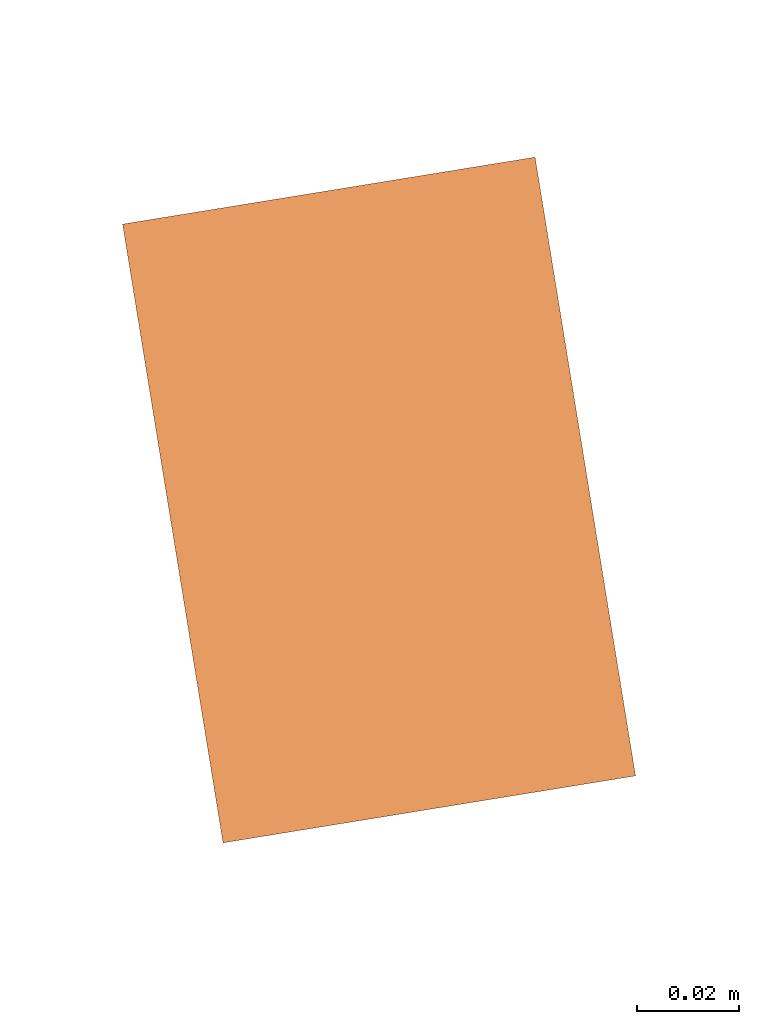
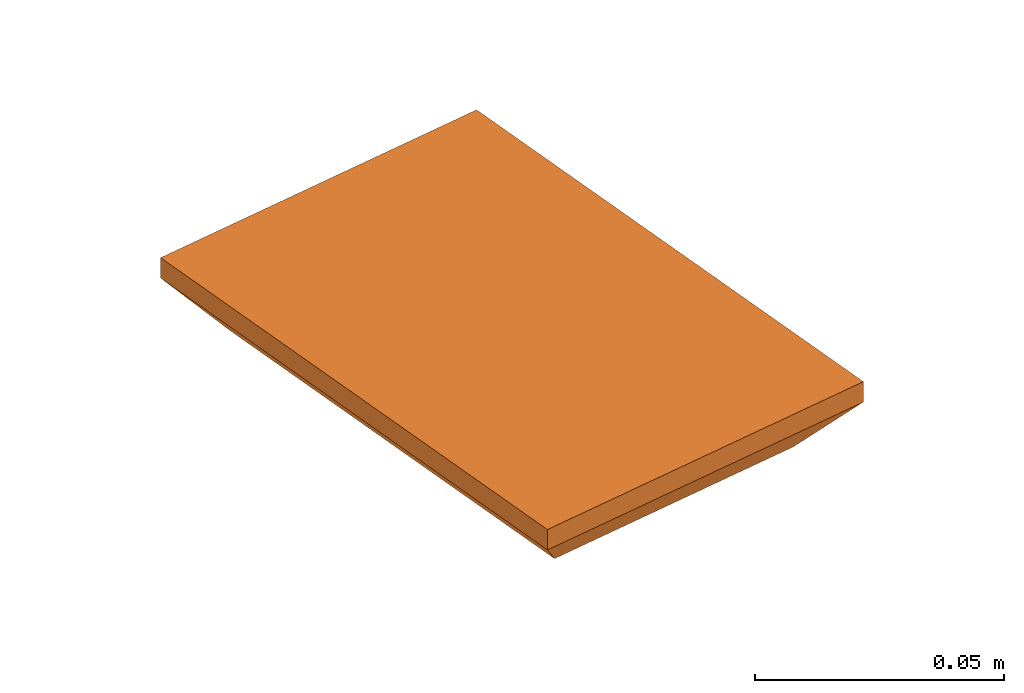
# One storey, part 25 of 33: 1 proxy.
"""IFC2X3 building model written with IfcOpenShell, lengths in millimetres."""

from ifc_helpers import new_model, entity, si_unit, converted_unit, derived_unit, direction, frame, origin, origin_with_axes, place, context, subcontext, project, spatial, faceted_brep, source, transform, mapped, material, type_object, element, save


model = new_model("IFC2X3")

# Units and contexts
plan_context = context("Plan", 3, precision=1e-05, world=origin_with_axes())
model_context = context("Model", 3, precision=0.01, world=origin(), true_north=direction((6.12323399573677e-17, 1.0)))
body_context = subcontext(model_context, "Body", "Model", "MODEL_VIEW")
ifc_project = project(units=[converted_unit("PLANEANGLEUNIT", "DEGREE", entity("IfcPositiveLengthMeasure", 0.0174532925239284), si_unit("PLANEANGLEUNIT", "RADIAN"), dimensions=[0, 0, 0, 0, 0, 0, 0]), si_unit("AREAUNIT", "SQUARE_METRE"), si_unit("LENGTHUNIT", "METRE", prefix="MILLI"), si_unit("MASSUNIT", "GRAM", prefix="KILO"), si_unit("POWERUNIT", "WATT"), si_unit("PRESSUREUNIT", "PASCAL", prefix="KILO"), si_unit("FORCEUNIT", "NEWTON", prefix="KILO"), si_unit("ELECTRICVOLTAGEUNIT", "VOLT"), si_unit("ELECTRICCURRENTUNIT", "AMPERE"), si_unit("THERMODYNAMICTEMPERATUREUNIT", "DEGREE_CELSIUS"), si_unit("TIMEUNIT", "SECOND"), si_unit("VOLUMEUNIT", "CUBIC_METRE"), derived_unit("LINEARVELOCITYUNIT", [(si_unit("LENGTHUNIT", "METRE"), 1), (si_unit("TIMEUNIT", "SECOND"), -1)]), derived_unit("VOLUMETRICFLOWRATEUNIT", [(si_unit("VOLUMEUNIT", "CUBIC_METRE"), 1), (si_unit("TIMEUNIT", "SECOND"), -1)]), derived_unit("THERMALTRANSMITTANCEUNIT", [(si_unit("POWERUNIT", "WATT"), 1), (si_unit("THERMODYNAMICTEMPERATUREUNIT", "KELVIN"), -1), (si_unit("AREAUNIT", "SQUARE_METRE"), -1)]), derived_unit("SOUNDPRESSUREUNIT", [(si_unit("PRESSUREUNIT", "PASCAL"), 1)])], contexts=[model_context, plan_context])

# Site, building, storey
site_placement = place(None, frame((-0.219946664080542, 0.12226179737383, 0.0), z_axis=(0.0, 0.0, 1.0), x_axis=(-0.160236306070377, 0.987078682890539, 0.0)))
site = spatial("IfcSite", under=ifc_project, at=site_placement, Name="Default", CompositionType="ELEMENT")
building_placement = place(site_placement, origin_with_axes())
building = spatial("IfcBuilding", under=site, at=building_placement, CompositionType="ELEMENT")
storey_placement = place(building_placement, frame((0.0, 0.0, 59000.0), z_axis=(0.0, 0.0, 1.0), x_axis=(1.0, 0.0, 0.0)))
storey = spatial("IfcBuildingStorey", under=building, at=storey_placement, Name="Nivå F", CompositionType="ELEMENT", Elevation=59000.0)

# Proxy
ifc_material = material(Name="<Unnamed>")
building_element_proxy_type = type_object("IfcBuildingElementProxyType", Name="Wieland stikk i tak m_boks 2P+dali+J PH:Earthed reces socket c2", PredefinedType="NOTDEFINED", material=ifc_material)
shared_shape = source(origin(), body_context, "Body", "Brep", [
    faceted_brep([(25.250000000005, -18.3000000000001, -17.8944271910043), (25.250000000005, -18.5954451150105, -17.489897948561), (25.250000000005, -18.7000000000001, -17.0), (25.250000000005, -18.7000000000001, -5.0), (25.250000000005, -19.5000000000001, -5.0), (25.250000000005, -19.5000000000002, -17.0), (25.250000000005, -18.9142135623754, -18.4142135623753), (25.250000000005, -17.5000000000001, -19.0), (25.250000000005, -17.5000000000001, -11.0), (25.250000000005, -18.3000000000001, -11.0), (24.250000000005, -19.5000000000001, -5.0), (24.250000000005, -18.7000000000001, -5.0), (24.250000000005, -18.7000000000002, -17.0), (24.250000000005, -18.5954451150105, -17.489897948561), (24.250000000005, -18.3000000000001, -17.8944271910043), (24.250000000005, -18.3000000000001, -11.0), (24.250000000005, -17.5000000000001, -11.0), (24.250000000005, -17.5000000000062, -19.0), (24.250000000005, -18.9142135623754, -18.4142135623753), (24.250000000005, -19.5000000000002, -17.0)], [[[0, 1, 2, 3, 4, 5, 6, 7, 8, 9]], [[10, 11, 12, 13, 14, 15, 16, 17, 18, 19]], [[11, 10, 4, 3]], [[12, 11, 3, 2]], [[2, 1, 13, 12]], [[0, 14, 13, 1]], [[15, 14, 0, 9]], [[16, 15, 9, 8]], [[17, 16, 8, 7]], [[17, 7, 6, 18]], [[6, 5, 19, 18]], [[10, 19, 5, 4]]]),
    faceted_brep([(24.250000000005, 18.3000000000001, -17.8944271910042), (24.250000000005, 18.5954451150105, -17.4898979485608), (24.250000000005, 18.7000000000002, -17.0), (24.250000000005, 18.7000000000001, -5.0), (24.250000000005, 19.5000000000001, -5.0), (24.250000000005, 19.5000000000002, -17.0), (24.250000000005, 18.9142135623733, -18.4142135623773), (24.250000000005, 17.5000000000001, -19.0), (24.250000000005, 17.5000000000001, -11.0), (24.250000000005, 18.3000000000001, -11.0), (25.250000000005, 19.5000000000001, -5.0), (25.250000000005, 18.7000000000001, -5.0), (25.250000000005, 18.7000000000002, -17.0), (25.250000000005, 18.5954451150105, -17.4898979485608), (25.250000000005, 18.3000000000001, -17.8944271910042), (25.250000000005, 18.3000000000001, -11.0), (25.250000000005, 17.5000000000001, -11.0), (25.250000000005, 17.5000000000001, -19.0), (25.250000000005, 18.9142135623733, -18.4142135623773), (25.250000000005, 19.5000000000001, -17.0)], [[[0, 1, 2, 3, 4, 5, 6, 7, 8, 9]], [[10, 11, 12, 13, 14, 15, 16, 17, 18, 19]], [[9, 8, 16, 15]], [[0, 9, 15, 14]], [[14, 13, 1, 0]], [[12, 2, 1, 13]], [[3, 2, 12, 11]], [[4, 3, 11, 10]], [[5, 4, 10, 19]], [[5, 19, 18, 6]], [[18, 17, 7, 6]], [[8, 7, 17, 16]]]),
    faceted_brep([(-25.249999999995, 18.9142135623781, -18.4142135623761), (-25.249999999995, 19.5000000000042, -17.0), (-25.249999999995, 19.5000000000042, -5.0), (-25.249999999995, 18.7000000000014, -5.0), (-25.249999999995, 18.7000000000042, -17.0), (-25.249999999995, 18.5954451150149, -17.4898979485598), (-25.249999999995, 18.3000000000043, -17.8944271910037), (-25.249999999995, 18.3000000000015, -11.0), (-25.249999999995, 17.5000000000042, -11.0), (-25.249999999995, 17.5000000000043, -19.0), (-26.249999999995, 19.5000000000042, -5.0), (-26.249999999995, 19.5000000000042, -17.0), (-26.249999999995, 18.9142135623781, -18.4142135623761), (-26.249999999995, 17.5000000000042, -19.0), (-26.249999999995, 17.5000000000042, -11.0), (-26.249999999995, 18.3000000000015, -11.0), (-26.249999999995, 18.3000000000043, -17.8944271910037), (-26.249999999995, 18.5954451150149, -17.4898979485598), (-26.249999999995, 18.7000000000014, -17.0), (-26.249999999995, 18.7000000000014, -5.0)], [[[0, 1, 2, 3, 4, 5, 6, 7, 8, 9]], [[10, 11, 12, 13, 14, 15, 16, 17, 18, 19]], [[11, 10, 2, 1]], [[11, 1, 0, 12]], [[0, 9, 13, 12]], [[14, 13, 9, 8]], [[16, 15, 7, 6]], [[6, 5, 17, 16]], [[4, 18, 17, 5]], [[19, 18, 4, 3]], [[10, 19, 3, 2]], [[15, 14, 8, 7]]]),
    faceted_brep([(-25.249999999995, -17.4999999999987, -19.0), (-25.249999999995, -17.4999999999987, -5.0), (-25.249999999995, -18.2999999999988, -5.0), (-25.249999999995, -18.2999999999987, -17.8944271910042), (-25.249999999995, -18.5954451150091, -17.4898979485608), (-25.249999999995, -18.6999999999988, -17.0), (-25.249999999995, -18.6999999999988, -11.0), (-25.249999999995, -19.4999999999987, -11.0), (-25.249999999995, -19.4999999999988, -17.0), (-25.249999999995, -18.9142135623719, -18.4142135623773), (-26.249999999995, -17.4999999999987, -5.0), (-26.249999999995, -17.4999999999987, -19.0), (-26.249999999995, -18.9142135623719, -18.4142135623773), (-26.249999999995, -19.4999999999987, -17.0), (-26.249999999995, -19.4999999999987, -11.0), (-26.249999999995, -18.6999999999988, -11.0), (-26.249999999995, -18.6999999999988, -17.0), (-26.249999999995, -18.5954451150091, -17.4898979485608), (-26.249999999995, -18.2999999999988, -17.8944271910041), (-26.249999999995, -18.2999999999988, -5.0)], [[[0, 1, 2, 3, 4, 5, 6, 7, 8, 9]], [[10, 11, 12, 13, 14, 15, 16, 17, 18, 19]], [[11, 10, 1, 0]], [[0, 9, 12, 11]], [[12, 9, 8, 13]], [[14, 13, 8, 7]], [[15, 14, 7, 6]], [[16, 15, 6, 5]], [[4, 17, 16, 5]], [[3, 18, 17, 4]], [[19, 18, 3, 2]], [[10, 19, 2, 1]]]),
    faceted_brep([(15.7500000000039, -2.5, -5.0), (16.3750000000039, -1.875, -5.0), (17.0, -1.25, -5.0), (17.6250000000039, -0.625000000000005, -5.0), (18.2500000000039, 0.0, -5.0), (17.7008289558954, 0.54917104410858, -5.0), (17.0, 1.25, -5.0), (16.375000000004, 1.875, -5.0), (15.750000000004, 2.5, -5.0), (15.125000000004, 1.87500000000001, -5.0), (14.500000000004, 1.25000000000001, -5.0), (13.8750000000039, 0.625000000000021, -5.0), (13.2500000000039, 0.0, -5.0), (13.7991710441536, -0.549171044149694, -5.0), (14.5000000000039, -1.25, -5.0), (15.1250000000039, -1.875, -5.0), (17.7008289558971, -0.549171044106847, -5.20000000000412), (17.1516579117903, -1.09834208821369, -5.20000000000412), (16.4508289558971, -1.79917104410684, -5.20000000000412), (15.7500000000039, -2.5, -5.20000000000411), (15.1250000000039, -1.875, -5.20000000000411), (14.5000000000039, -1.25, -5.20000000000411), (13.8750000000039, -0.625, -5.20000000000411), (13.2500000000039, 0.0, -5.2000000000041), (13.7991710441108, 0.54917104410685, -5.20000000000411), (14.3483420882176, 1.09834208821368, -5.20000000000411), (15.0491710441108, 1.79917104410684, -5.20000000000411), (15.750000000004, 2.5, -5.20000000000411), (16.375000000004, 1.875, -5.20000000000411), (17.0, 1.25, -5.20000000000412), (17.6250000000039, 0.624999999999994, -5.20000000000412), (18.2500000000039, 0.0, -5.20000000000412)], [[[0, 1, 2, 3, 4, 5, 6, 7, 8, 9, 10, 11, 12, 13, 14, 15]], [[16, 17, 18, 19, 20, 21, 22, 23, 24, 25, 26, 27, 28, 29, 30, 31]], [[29, 28, 27, 8, 7, 6, 5, 4, 31, 30]], [[8, 27, 26, 25, 24, 23, 12, 11, 10, 9]], [[21, 20, 19, 0, 15, 14, 13, 12, 23, 22]], [[0, 19, 18, 17, 16, 31, 4, 3, 2, 1]]]),
    faceted_brep([(35.0491710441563, -1.79917104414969, -5.20000000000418), (34.348342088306, -1.09834208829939, -5.20000000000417), (33.7991710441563, -0.549171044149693, -5.20000000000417), (33.2500000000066, 0.0, -5.20000000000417), (33.8750000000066, 0.625000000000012, -5.20000000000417), (34.5000000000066, 1.25000000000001, -5.20000000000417), (35.1250000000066, 1.875, -5.20000000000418), (35.7500000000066, 2.5, -5.20000000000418), (36.450828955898, 1.79917104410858, -5.20000000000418), (37.1516579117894, 1.09834208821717, -5.20000000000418), (37.700828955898, 0.54917104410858, -5.20000000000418), (38.2500000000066, 0.0, -5.20000000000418), (37.6250000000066, -0.625000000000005, -5.20000000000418), (37.0, -1.25, -5.20000000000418), (36.3750000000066, -1.875, -5.20000000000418), (35.7500000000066, -2.5, -5.20000000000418), (35.1250000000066, 1.87500000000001, -5.0), (34.5000000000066, 1.25000000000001, -5.0), (33.7991710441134, 0.549171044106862, -5.0), (33.2500000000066, 0.0, -5.0), (33.8750000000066, -0.625, -5.0), (34.5000000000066, -1.25, -5.0), (35.1250000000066, -1.875, -5.0), (35.7500000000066, -2.5, -5.0), (36.3750000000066, -1.875, -5.0), (37.0, -1.25, -5.0), (37.7008289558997, -0.549171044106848, -5.0), (38.2500000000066, 0.0, -5.0), (37.6250000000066, 0.624999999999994, -5.0), (37.0, 1.25, -5.0), (36.3750000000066, 1.875, -5.0), (35.7500000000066, 2.5, -5.0)], [[[0, 1, 2, 3, 4, 5, 6, 7, 8, 9, 10, 11, 12, 13, 14, 15]], [[16, 17, 18, 19, 20, 21, 22, 23, 24, 25, 26, 27, 28, 29, 30, 31]], [[30, 29, 28, 27, 11, 10, 9, 8, 7, 31]], [[31, 7, 6, 5, 4, 3, 19, 18, 17, 16]], [[22, 21, 20, 19, 3, 2, 1, 0, 15, 23]], [[23, 15, 14, 13, 12, 11, 27, 26, 25, 24]]]),
    faceted_brep([(-36.3749999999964, 1.87500000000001, -5.0), (-37.0, 1.25000000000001, -5.0), (-37.6249999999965, 0.625000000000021, -5.0), (-38.2499999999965, 0.0, -5.0), (-37.7008289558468, -0.549171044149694, -5.0), (-37.0, -1.25, -5.0), (-36.3749999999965, -1.875, -5.0), (-35.7499999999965, -2.5, -5.0), (-35.1249999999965, -1.875, -5.0), (-34.4999999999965, -1.25, -5.0), (-33.8749999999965, -0.625000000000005, -5.0), (-33.2499999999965, 0.0, -5.0), (-33.799171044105, 0.54917104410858, -5.0), (-34.4999999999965, 1.25, -5.0), (-35.1249999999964, 1.875, -5.0), (-35.7499999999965, 2.5, -5.0), (-36.3749999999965, -1.875, -5.20000000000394), (-37.0, -1.25, -5.20000000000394), (-37.6249999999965, -0.625, -5.20000000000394), (-38.2499999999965, 0.0, -5.20000000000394), (-37.7008289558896, 0.54917104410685, -5.20000000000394), (-37.1516579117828, 1.09834208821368, -5.20000000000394), (-36.4508289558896, 1.79917104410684, -5.20000000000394), (-35.7499999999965, 2.5, -5.20000000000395), (-35.1249999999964, 1.875, -5.20000000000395), (-34.4999999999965, 1.25, -5.20000000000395), (-33.8749999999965, 0.624999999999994, -5.20000000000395), (-33.2499999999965, 0.0, -5.20000000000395), (-33.7991710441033, -0.549171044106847, -5.20000000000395), (-34.3483420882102, -1.09834208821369, -5.20000000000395), (-35.0491710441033, -1.79917104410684, -5.20000000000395), (-35.7499999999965, -2.5, -5.20000000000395)], [[[0, 1, 2, 3, 4, 5, 6, 7, 8, 9, 10, 11, 12, 13, 14, 15]], [[16, 17, 18, 19, 20, 21, 22, 23, 24, 25, 26, 27, 28, 29, 30, 31]], [[25, 24, 23, 15, 14, 13, 12, 11, 27, 26]], [[15, 23, 22, 21, 20, 19, 3, 2, 1, 0]], [[17, 16, 31, 7, 6, 5, 4, 3, 19, 18]], [[7, 31, 30, 29, 28, 27, 11, 10, 9, 8]]]),
    faceted_brep([(-16.4508289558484, -1.79917104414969, -5.20000000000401), (-17.1516579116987, -1.09834208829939, -5.20000000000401), (-17.7008289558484, -0.549171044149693, -5.200000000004), (-18.2499999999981, 0.0, -5.200000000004), (-17.6249999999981, 0.625000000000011, -5.200000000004), (-17.0, 1.25000000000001, -5.20000000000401), (-16.3749999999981, 1.875, -5.20000000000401), (-15.7499999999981, 2.5, -5.20000000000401), (-15.0491710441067, 1.79917104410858, -5.20000000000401), (-14.3483420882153, 1.09834208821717, -5.20000000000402), (-13.7991710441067, 0.549171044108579, -5.20000000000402), (-13.2499999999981, 0.0, -5.20000000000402), (-13.8749999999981, -0.625000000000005, -5.20000000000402), (-14.4999999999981, -1.25, -5.20000000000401), (-15.1249999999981, -1.875, -5.20000000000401), (-15.7499999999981, -2.5, -5.20000000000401), (-16.3749999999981, 1.87500000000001, -5.0), (-17.0, 1.25000000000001, -5.0), (-17.7008289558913, 0.549171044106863, -5.0), (-18.2499999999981, 0.0, -5.0), (-17.6249999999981, -0.625, -5.0), (-17.0, -1.25, -5.0), (-16.3749999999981, -1.875, -5.0), (-15.7499999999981, -2.5, -5.0), (-15.1249999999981, -1.875, -5.0), (-14.4999999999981, -1.25, -5.0), (-13.799171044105, -0.549171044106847, -5.0), (-13.2499999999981, 0.0, -5.0), (-13.8749999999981, 0.624999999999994, -5.0), (-14.4999999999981, 1.25, -5.0), (-15.1249999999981, 1.875, -5.0), (-15.7499999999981, 2.5, -5.0)], [[[0, 1, 2, 3, 4, 5, 6, 7, 8, 9, 10, 11, 12, 13, 14, 15]], [[16, 17, 18, 19, 20, 21, 22, 23, 24, 25, 26, 27, 28, 29, 30, 31]], [[30, 29, 28, 27, 11, 10, 9, 8, 7, 31]], [[31, 7, 6, 5, 4, 3, 19, 18, 17, 16]], [[22, 21, 20, 19, 3, 2, 1, 0, 15, 23]], [[23, 15, 14, 13, 12, 11, 27, 26, 25, 24]]]),
    faceted_brep([(-51.5000000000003, -31.0, -17.0), (-35.7500000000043, -17.3205080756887, -17.0), (-30.9263809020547, -19.3185165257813, -17.0), (-39.8921356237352, -14.1421356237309, -17.0), (-25.750000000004, -20.0, -17.0), (-20.5736190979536, -19.3185165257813, -17.0), (20.5736190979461, -19.3185165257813, -17.0), (-43.070508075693, -10.0, -17.0), (-45.0685165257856, -5.1763809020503, -17.0), (-45.7500000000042, 0.0, -17.0), (51.5000000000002, -31.0, -17.0), (-51.5000000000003, 31.0, -17.0), (-45.0685165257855, 5.17638090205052, -17.0), (-43.0705080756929, 10.0, -17.0), (-39.892135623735, 14.142135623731, -17.0), (-35.7500000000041, 17.3205080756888, -17.0), (-30.9263809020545, 19.3185165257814, -17.0), (-25.7500000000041, 20.0, -17.0), (-20.5736190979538, 19.3185165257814, -17.0), (20.5736190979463, 19.3185165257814, -17.0), (51.5000000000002, 31.0, -17.0), (25.7499999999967, 20.0, -17.0), (30.926380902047, 19.3185165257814, -17.0), (35.7499999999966, 17.3205080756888, -17.0), (39.8921356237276, 14.142135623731, -17.0), (43.0705080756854, 10.0, -17.0), (45.068516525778, 5.1763809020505, -17.0), (45.7499999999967, 0.0, -17.0), (25.7499999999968, -20.0, -17.0), (30.9263809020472, -19.3185165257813, -17.0), (35.7499999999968, -17.3205080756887, -17.0), (39.8921356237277, -14.1421356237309, -17.0), (43.0705080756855, -10.0, -17.0), (45.0685165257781, -5.17638090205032, -17.0), (15.7499999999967, 17.3205080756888, -17.0), (-15.7500000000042, 17.3205080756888, -17.0), (11.6078643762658, 14.142135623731, -17.0), (-11.6078643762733, 14.142135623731, -17.0), (8.42949192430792, 10.0, -17.0), (-8.42949192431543, 10.0, -17.0), (6.4314834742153, 5.17638090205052, -17.0), (-6.43148347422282, 5.1763809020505, -17.0), (-5.75000000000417, 0.0, -17.0), (5.74999999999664, 0.0, -17.0), (6.43148347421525, -5.1763809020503, -17.0), (-6.43148347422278, -5.17638090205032, -17.0), (-8.42949192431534, -10.0, -17.0), (8.42949192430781, -10.0, -17.0), (-11.6078643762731, -14.1421356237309, -17.0), (11.6078643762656, -14.1421356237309, -17.0), (-15.7500000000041, -17.3205080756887, -17.0), (15.7499999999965, -17.3205080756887, -17.0), (61.5000000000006, -41.0, -5.0), (35.7499999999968, -17.3205080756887, -5.0), (30.9263809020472, -19.3185165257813, -5.0), (39.8921356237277, -14.1421356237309, -5.0), (25.7499999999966, -20.0, -5.0), (20.5736190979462, -19.3185165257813, -5.0), (-20.5736190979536, -19.3185165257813, -5.0), (43.0705080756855, -10.0, -5.0), (45.0685165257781, -5.17638090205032, -5.0), (45.7499999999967, 0.0, -5.0), (-61.5000000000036, -41.0, -5.0), (61.5000000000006, 41.0, -5.0), (45.068516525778, 5.1763809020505, -5.0), (43.0705080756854, 10.0, -5.0), (39.8921356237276, 14.142135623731, -5.0), (35.7499999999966, 17.3205080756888, -5.0), (30.9263809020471, 19.3185165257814, -5.0), (25.7499999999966, 20.0, -5.0), (20.5736190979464, 19.3185165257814, -5.0), (-20.5736190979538, 19.3185165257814, -5.0), (-61.5000000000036, 41.0, -5.0), (-25.7500000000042, 20.0, -5.0), (-30.9263809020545, 19.3185165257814, -5.0), (-35.750000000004, 17.3205080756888, -5.0), (-39.892135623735, 14.142135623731, -5.0), (-43.0705080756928, 10.0, -5.0), (-45.0685165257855, 5.17638090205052, -5.0), (-45.7500000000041, 0.0, -5.0), (-25.7500000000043, -20.0, -5.0), (-30.9263809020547, -19.3185165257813, -5.0), (-35.7500000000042, -17.3205080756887, -5.0), (-39.8921356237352, -14.1421356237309, -5.0), (-43.070508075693, -10.0, -5.0), (-45.0685165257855, -5.1763809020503, -5.0), (-15.7500000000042, 17.3205080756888, -5.0), (15.7499999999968, 17.3205080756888, -5.0), (-11.6078643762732, 14.142135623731, -5.0), (11.6078643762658, 14.142135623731, -5.0), (-8.4294919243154, 10.0, -5.0), (8.42949192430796, 10.0, -5.0), (-6.43148347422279, 5.1763809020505, -5.0), (6.43148347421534, 5.17638090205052, -5.0), (5.74999999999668, 0.0, -5.0), (-5.75000000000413, 0.0, -5.0), (-6.43148347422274, -5.17638090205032, -5.0), (6.43148347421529, -5.1763809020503, -5.0), (8.42949192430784, -10.0, -5.0), (-8.4294919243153, -10.0, -5.0), (11.6078643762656, -14.1421356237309, -5.0), (-11.6078643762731, -14.1421356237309, -5.0), (15.7499999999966, -17.3205080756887, -5.0), (-15.750000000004, -17.3205080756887, -5.0)], [[[0, 1, 2]], [[1, 0, 3]], [[0, 2, 4]], [[4, 5, 0]], [[0, 5, 6]], [[7, 3, 0]], [[8, 7, 0]], [[0, 9, 8]], [[6, 10, 0]], [[9, 0, 11]], [[12, 9, 11]], [[13, 12, 11]], [[11, 14, 13]], [[14, 11, 15]], [[15, 11, 16]], [[17, 16, 11]], [[18, 17, 11]], [[11, 19, 18]], [[19, 11, 20]], [[21, 19, 20]], [[20, 22, 21]], [[22, 20, 23]], [[24, 23, 20]], [[24, 20, 25]], [[26, 25, 20]], [[27, 26, 20]], [[27, 20, 10]], [[6, 28, 10]], [[29, 10, 28]], [[10, 29, 30]], [[10, 30, 31]], [[31, 32, 10]], [[32, 33, 10]], [[10, 33, 27]], [[19, 34, 18]], [[35, 18, 34]], [[36, 35, 34]], [[37, 35, 36]], [[36, 38, 37]], [[39, 37, 38]], [[38, 40, 39]], [[41, 39, 40]], [[40, 42, 41]], [[42, 40, 43]], [[43, 44, 42]], [[45, 42, 44]], [[46, 45, 44]], [[44, 47, 46]], [[48, 46, 47]], [[47, 49, 48]], [[50, 48, 49]], [[51, 50, 49]], [[5, 50, 51]], [[51, 6, 5]], [[52, 53, 54]], [[53, 52, 55]], [[52, 54, 56]], [[56, 57, 52]], [[52, 57, 58]], [[59, 55, 52]], [[60, 59, 52]], [[52, 61, 60]], [[58, 62, 52]], [[61, 52, 63]], [[64, 61, 63]], [[65, 64, 63]], [[63, 66, 65]], [[66, 63, 67]], [[67, 63, 68]], [[69, 68, 63]], [[70, 69, 63]], [[70, 63, 71]], [[63, 72, 71]], [[73, 71, 72]], [[72, 74, 73]], [[74, 72, 75]], [[76, 75, 72]], [[76, 72, 77]], [[78, 77, 72]], [[79, 78, 72]], [[79, 72, 62]], [[58, 80, 62]], [[81, 62, 80]], [[62, 81, 82]], [[62, 82, 83]], [[83, 84, 62]], [[84, 85, 62]], [[62, 85, 79]], [[86, 70, 71]], [[86, 87, 70]], [[88, 87, 86]], [[89, 87, 88]], [[88, 90, 89]], [[91, 89, 90]], [[90, 92, 91]], [[93, 91, 92]], [[92, 94, 93]], [[94, 92, 95]], [[95, 96, 94]], [[97, 94, 96]], [[98, 97, 96]], [[96, 99, 98]], [[100, 98, 99]], [[99, 101, 100]], [[102, 100, 101]], [[103, 102, 101]], [[103, 57, 102]], [[58, 57, 103]], [[20, 63, 52, 10]], [[11, 72, 63, 20]], [[0, 62, 72, 11]], [[10, 52, 62, 0]], [[73, 17, 18, 71]], [[71, 18, 35, 86]], [[90, 88, 37, 39]], [[37, 88, 86, 35]], [[92, 90, 39, 41]], [[92, 41, 42, 95]], [[95, 42, 45, 96]], [[96, 45, 46, 99]], [[103, 101, 48, 50]], [[48, 101, 99, 46]], [[58, 103, 50, 5]], [[58, 5, 4, 80]], [[80, 4, 2, 81]], [[81, 2, 1, 82]], [[84, 83, 3, 7]], [[3, 83, 82, 1]], [[85, 84, 7, 8]], [[85, 8, 9, 79]], [[79, 9, 12, 78]], [[78, 12, 13, 77]], [[75, 76, 14, 15]], [[14, 76, 77, 13]], [[74, 75, 15, 16]], [[74, 16, 17, 73]], [[69, 21, 22, 68]], [[68, 22, 23, 67]], [[65, 66, 24, 25]], [[23, 24, 66, 67]], [[64, 65, 25, 26]], [[27, 61, 64, 26]], [[60, 33, 32, 59]], [[59, 32, 31, 55]], [[54, 53, 30, 29]], [[31, 30, 53, 55]], [[56, 54, 29, 28]], [[60, 61, 27, 33]], [[56, 28, 6, 57]], [[57, 6, 51, 102]], [[98, 100, 49, 47]], [[51, 49, 100, 102]], [[97, 98, 47, 44]], [[43, 94, 97, 44]], [[93, 40, 38, 91]], [[91, 38, 36, 89]], [[70, 87, 34, 19]], [[36, 34, 87, 89]], [[69, 70, 19, 21]], [[93, 94, 43, 40]]]),
    faceted_brep([(61.5000000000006, -41.0, 0.0), (61.5000000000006, 41.0, 0.0), (-61.5000000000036, 41.0, 0.0), (-61.5000000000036, -41.0, 0.0), (61.5000000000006, -41.0, -5.0), (-61.5000000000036, -41.0, -5.0), (-61.5000000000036, 41.0, -5.0), (61.5000000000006, 41.0, -5.0)], [[[0, 1, 2, 3]], [[4, 5, 6, 7]], [[1, 0, 4, 7]], [[2, 1, 7, 6]], [[3, 2, 6, 5]], [[0, 3, 5, 4]]]),
])
proxy_placement = place(storey_placement, frame((780110.869644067, -504814.197013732, 2870.0), z_axis=(0.0, 0.0, 1.0), x_axis=(1.0, 0.0, 0.0)))
element("IfcBuildingElementProxy", 1, at=proxy_placement, inside=storey, type_object=building_element_proxy_type, material=ifc_material, Name="Wieland stikk i tak m_boks 2P+dali+J PH:Earthed reces socket c2", ObjectType="Wieland stikk i tak m_boks 2P+dali+J PH:Earthed reces socket c2", context=body_context, shape_type="MappedRepresentation", body=[
    mapped(shared_shape, transform((0.0, 0.0, 0.0), scale=1.0)),
])

save(model, "model.ifc")
